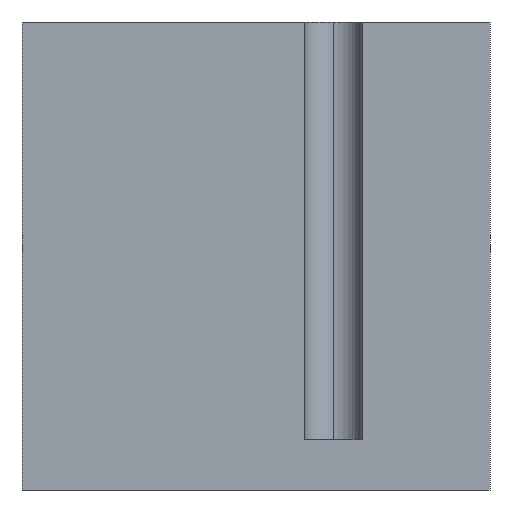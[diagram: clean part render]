
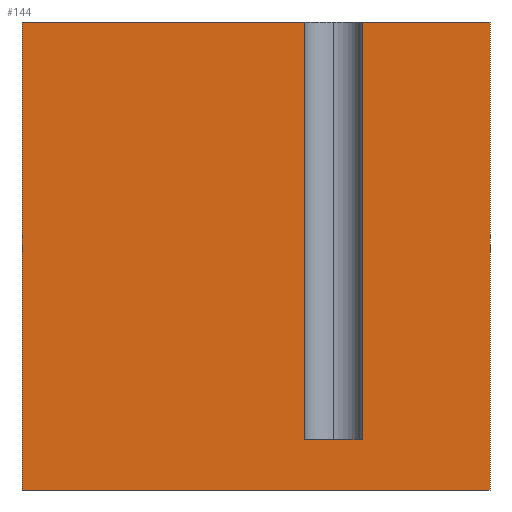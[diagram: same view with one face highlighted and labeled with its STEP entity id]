
A CAD part, left-side view. The second image highlights one B-rep face of the part: STEP entity #144.
In plain terms, the highlighted planar face has unit normal (-1, 0, 0).
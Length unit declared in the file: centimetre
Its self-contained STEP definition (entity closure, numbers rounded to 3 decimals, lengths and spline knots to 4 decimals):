
#1 = VECTOR ( 'NONE', #297, 100. ) ;
#11 = VERTEX_POINT ( 'NONE', #420 ) ;
#17 = LINE ( 'NONE', #240, #259 ) ;
#35 = EDGE_CURVE ( 'NONE', #115, #11, #352, .T. ) ;
#47 = CARTESIAN_POINT ( 'NONE',  ( 0., 396.238, 1000. ) ) ;
#48 = ORIENTED_EDGE ( 'NONE', *, *, #35, .F. ) ;
#51 = VECTOR ( 'NONE', #272, 100. ) ;
#58 = CARTESIAN_POINT ( 'NONE',  ( 0., 1000., 0. ) ) ;
#61 = CARTESIAN_POINT ( 'NONE',  ( 0., 273.3359, 1000. ) ) ;
#67 = ORIENTED_EDGE ( 'NONE', *, *, #402, .F. ) ;
#89 = ORIENTED_EDGE ( 'NONE', *, *, #212, .F. ) ;
#94 = CARTESIAN_POINT ( 'NONE',  ( 0., 0., 1000. ) ) ;
#97 = CARTESIAN_POINT ( 'NONE',  ( 0., 0., 0. ) ) ;
#114 = VECTOR ( 'NONE', #127, 100. ) ;
#115 = VERTEX_POINT ( 'NONE', #61 ) ;
#119 = VERTEX_POINT ( 'NONE', #58 ) ;
#120 = CARTESIAN_POINT ( 'NONE',  ( 0., 396.238, 108.0547 ) ) ;
#127 = DIRECTION ( 'NONE',  ( 0., -1., 0. ) ) ;
#133 = DIRECTION ( 'NONE',  ( 0., 0., -1. ) ) ;
#144 = ADVANCED_FACE ( 'NONE', ( #204 ), #354, .F. ) ;
#145 = LINE ( 'NONE', #336, #1 ) ;
#146 = VERTEX_POINT ( 'NONE', #97 ) ;
#150 = CARTESIAN_POINT ( 'NONE',  ( 0., 1000., 0. ) ) ;
#154 = VECTOR ( 'NONE', #396, 100. ) ;
#155 = AXIS2_PLACEMENT_3D ( 'NONE', #461, #427, #133 ) ;
#161 = LINE ( 'NONE', #94, #405 ) ;
#166 = EDGE_CURVE ( 'NONE', #11, #146, #161, .T. ) ;
#168 = LINE ( 'NONE', #344, #51 ) ;
#178 = ORIENTED_EDGE ( 'NONE', *, *, #395, .F. ) ;
#185 = CARTESIAN_POINT ( 'NONE',  ( 0., 396.238, 108.0547 ) ) ;
#195 = ORIENTED_EDGE ( 'NONE', *, *, #298, .T. ) ;
#204 = FACE_OUTER_BOUND ( 'NONE', #325, .T. ) ;
#205 = VERTEX_POINT ( 'NONE', #47 ) ;
#212 = EDGE_CURVE ( 'NONE', #374, #115, #17, .T. ) ;
#213 = LINE ( 'NONE', #470, #154 ) ;
#215 = VECTOR ( 'NONE', #448, 100. ) ;
#216 = DIRECTION ( 'NONE',  ( 0., -1., 0. ) ) ;
#217 = ORIENTED_EDGE ( 'NONE', *, *, #221, .T. ) ;
#221 = EDGE_CURVE ( 'NONE', #340, #119, #168, .T. ) ;
#224 = LINE ( 'NONE', #120, #215 ) ;
#240 = CARTESIAN_POINT ( 'NONE',  ( 0., 273.3359, 108.0547 ) ) ;
#257 = CARTESIAN_POINT ( 'NONE',  ( 0., 273.3359, 108.0547 ) ) ;
#259 = VECTOR ( 'NONE', #270, 100. ) ;
#270 = DIRECTION ( 'NONE',  ( 0., 0., 1. ) ) ;
#272 = DIRECTION ( 'NONE',  ( 0., 0., -1. ) ) ;
#288 = LINE ( 'NONE', #150, #450 ) ;
#295 = CARTESIAN_POINT ( 'NONE',  ( 0., 1000., 1000. ) ) ;
#297 = DIRECTION ( 'NONE',  ( 0., -1., 0. ) ) ;
#298 = EDGE_CURVE ( 'NONE', #119, #146, #288, .T. ) ;
#325 = EDGE_LOOP ( 'NONE', ( #178, #382, #67, #217, #195, #447, #48, #89 ) ) ;
#336 = CARTESIAN_POINT ( 'NONE',  ( 0., 1000., 1000. ) ) ;
#340 = VERTEX_POINT ( 'NONE', #295 ) ;
#344 = CARTESIAN_POINT ( 'NONE',  ( 0., 1000., 1000. ) ) ;
#352 = LINE ( 'NONE', #386, #114 ) ;
#354 = PLANE ( 'NONE',  #155 ) ;
#374 = VERTEX_POINT ( 'NONE', #257 ) ;
#376 = VERTEX_POINT ( 'NONE', #185 ) ;
#382 = ORIENTED_EDGE ( 'NONE', *, *, #432, .T. ) ;
#386 = CARTESIAN_POINT ( 'NONE',  ( 0., 1000., 1000. ) ) ;
#395 = EDGE_CURVE ( 'NONE', #376, #374, #213, .T. ) ;
#396 = DIRECTION ( 'NONE',  ( 0., -1., 0. ) ) ;
#402 = EDGE_CURVE ( 'NONE', #340, #205, #145, .T. ) ;
#405 = VECTOR ( 'NONE', #426, 100. ) ;
#420 = CARTESIAN_POINT ( 'NONE',  ( 0., 0., 1000. ) ) ;
#426 = DIRECTION ( 'NONE',  ( 0., 0., -1. ) ) ;
#427 = DIRECTION ( 'NONE',  ( 1., 0., 0. ) ) ;
#432 = EDGE_CURVE ( 'NONE', #376, #205, #224, .T. ) ;
#447 = ORIENTED_EDGE ( 'NONE', *, *, #166, .F. ) ;
#448 = DIRECTION ( 'NONE',  ( 0., 0., 1. ) ) ;
#450 = VECTOR ( 'NONE', #216, 100. ) ;
#461 = CARTESIAN_POINT ( 'NONE',  ( 0., 1000., 1000. ) ) ;
#470 = CARTESIAN_POINT ( 'NONE',  ( 0., 1000., 108.0547 ) ) ;
